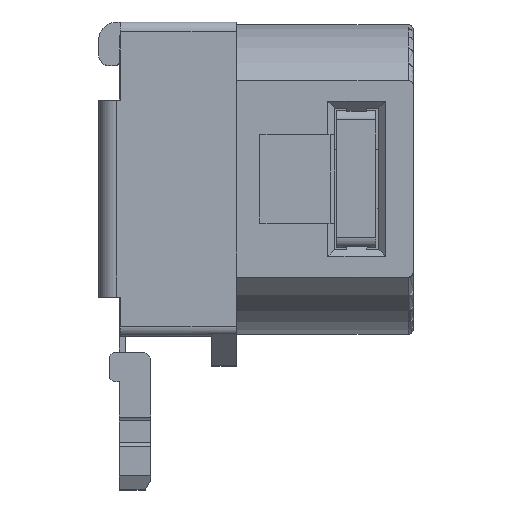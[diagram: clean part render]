
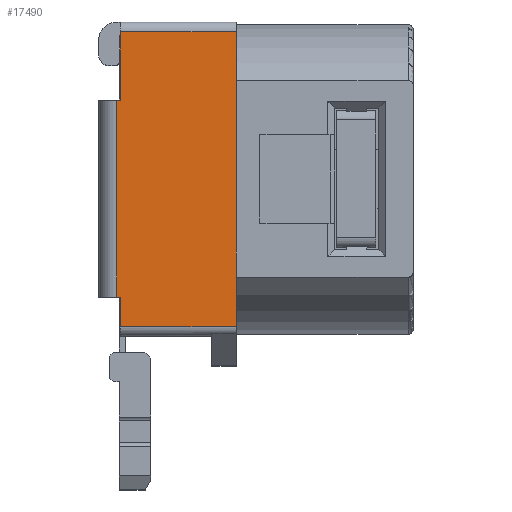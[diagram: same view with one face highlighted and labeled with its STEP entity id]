
A CAD part, top view. The second image highlights one B-rep face of the part: STEP entity #17490.
In plain terms, the highlighted planar face has unit normal (0, 0, 1).
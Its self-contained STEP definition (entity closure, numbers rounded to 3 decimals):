
#1403=PLANE('',#18744);
#3189=LINE('',#27716,#5110);
#3209=LINE('',#27770,#5130);
#3244=LINE('',#27877,#5165);
#3245=LINE('',#27880,#5166);
#3246=LINE('',#27882,#5167);
#3247=LINE('',#27883,#5168);
#3248=LINE('',#27885,#5169);
#3249=LINE('',#27887,#5170);
#3250=LINE('',#27889,#5171);
#3251=LINE('',#27890,#5172);
#5110=VECTOR('',#22593,10.);
#5130=VECTOR('',#22645,10.);
#5165=VECTOR('',#22750,10.);
#5166=VECTOR('',#22753,10.);
#5167=VECTOR('',#22754,10.);
#5168=VECTOR('',#22755,10.);
#5169=VECTOR('',#22756,10.);
#5170=VECTOR('',#22757,10.);
#5171=VECTOR('',#22758,10.);
#5172=VECTOR('',#22759,10.);
#6220=FACE_OUTER_BOUND('',#7132,.T.);
#7132=EDGE_LOOP('',(#15671,#15672,#15673,#15674,#15675,#15676,#15677,#15678,
#15679,#15680));
#9038=VERTEX_POINT('',#27713);
#9039=VERTEX_POINT('',#27715);
#9056=VERTEX_POINT('',#27767);
#9057=VERTEX_POINT('',#27769);
#9094=VERTEX_POINT('',#27875);
#9095=VERTEX_POINT('',#27879);
#9096=VERTEX_POINT('',#27881);
#9097=VERTEX_POINT('',#27884);
#9098=VERTEX_POINT('',#27886);
#9099=VERTEX_POINT('',#27888);
#11281=EDGE_CURVE('',#9038,#9039,#3189,.T.);
#11308=EDGE_CURVE('',#9057,#9056,#3209,.T.);
#11362=EDGE_CURVE('',#9094,#9056,#3244,.T.);
#11363=EDGE_CURVE('',#9095,#9094,#3245,.T.);
#11364=EDGE_CURVE('',#9096,#9095,#3246,.T.);
#11365=EDGE_CURVE('',#9096,#9039,#3247,.T.);
#11366=EDGE_CURVE('',#9097,#9038,#3248,.T.);
#11367=EDGE_CURVE('',#9098,#9097,#3249,.T.);
#11368=EDGE_CURVE('',#9099,#9098,#3250,.T.);
#11369=EDGE_CURVE('',#9057,#9099,#3251,.T.);
#15671=ORIENTED_EDGE('',*,*,#11362,.F.);
#15672=ORIENTED_EDGE('',*,*,#11363,.F.);
#15673=ORIENTED_EDGE('',*,*,#11364,.F.);
#15674=ORIENTED_EDGE('',*,*,#11365,.T.);
#15675=ORIENTED_EDGE('',*,*,#11281,.F.);
#15676=ORIENTED_EDGE('',*,*,#11366,.F.);
#15677=ORIENTED_EDGE('',*,*,#11367,.F.);
#15678=ORIENTED_EDGE('',*,*,#11368,.F.);
#15679=ORIENTED_EDGE('',*,*,#11369,.F.);
#15680=ORIENTED_EDGE('',*,*,#11308,.T.);
#17490=ADVANCED_FACE('',(#6220),#1403,.T.);
#18744=AXIS2_PLACEMENT_3D('',#27878,#22751,#22752);
#22593=DIRECTION('',(0.,-1.,0.));
#22645=DIRECTION('',(-1.,0.,0.));
#22750=DIRECTION('',(0.,1.,0.));
#22751=DIRECTION('center_axis',(0.,0.,1.));
#22752=DIRECTION('ref_axis',(0.,-1.,0.));
#22753=DIRECTION('',(-1.,0.,0.));
#22754=DIRECTION('',(0.,1.,0.));
#22755=DIRECTION('',(1.,0.,0.));
#22756=DIRECTION('',(0.,-1.,0.));
#22757=DIRECTION('',(0.,-1.,0.));
#22758=DIRECTION('',(1.,0.,0.));
#22759=DIRECTION('',(0.,1.,0.));
#27713=CARTESIAN_POINT('',(-4.8,-5.,8.));
#27715=CARTESIAN_POINT('',(-4.8,-7.5,8.));
#27716=CARTESIAN_POINT('',(-4.8,7.5,8.));
#27767=CARTESIAN_POINT('',(-10.9,4.,8.));
#27769=CARTESIAN_POINT('',(-10.7,4.,8.));
#27770=CARTESIAN_POINT('',(-10.7,4.,8.));
#27875=CARTESIAN_POINT('',(-10.9,-6.,8.));
#27877=CARTESIAN_POINT('',(-10.9,3.25,8.));
#27878=CARTESIAN_POINT('Origin',(-6.05,7.5,8.));
#27879=CARTESIAN_POINT('',(-10.7,-6.,8.));
#27880=CARTESIAN_POINT('',(-10.75,-6.,8.));
#27881=CARTESIAN_POINT('',(-10.7,-7.5,8.));
#27882=CARTESIAN_POINT('',(-10.7,-7.5,8.));
#27883=CARTESIAN_POINT('',(-6.05,-7.5,8.));
#27884=CARTESIAN_POINT('',(-4.8,5.,8.));
#27885=CARTESIAN_POINT('',(-4.8,7.5,8.));
#27886=CARTESIAN_POINT('',(-4.8,7.5,8.));
#27887=CARTESIAN_POINT('',(-4.8,7.5,8.));
#27888=CARTESIAN_POINT('',(-10.7,7.5,8.));
#27889=CARTESIAN_POINT('',(-6.05,7.5,8.));
#27890=CARTESIAN_POINT('',(-10.7,-7.5,8.));
